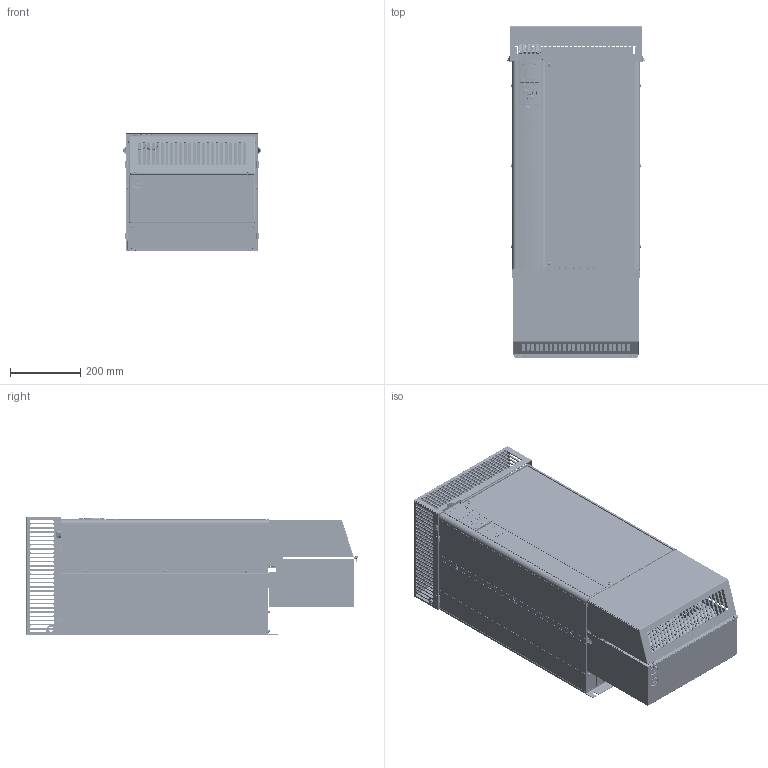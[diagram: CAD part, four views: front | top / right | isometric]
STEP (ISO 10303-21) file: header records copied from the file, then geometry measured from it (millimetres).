
FILE_DESCRIPTION((''),'2;1');
FILE_NAME('DANFOSS-FC300C4NEMA1KITOPT-205','2008-10-23T',('Abhilash.Paramesh'),('Danfoss Drives A/S'),'PRO/ENGINEER BY PARAMETRIC TECHNOLOGY CORPORATION, 2007160','PRO/ENGINEER BY PARAMETRIC TECHNOLOGY CORPORATION, 2007160','');
FILE_SCHEMA(('CONFIG_CONTROL_DESIGN', 'GEOMETRIC_VALIDATION_PROPERTIES_MIM'));
Products named in the file (1): DANFOSS-FC300C4NEMA1KITOPT-205
Bounding box: 391.93 x 946.75 x 337 mm (x, y, z)
Volume: 70472649.6 mm3; surface area: 2956514.7 mm2
Topology: 1 solids, 30 shells, 7292 faces, 20278 edges, 12966 vertices
Faces by surface type: plane 3809, cylinder 2261, bspline 680, extrusion 175, torus 157, cone 116, sphere 94
Entity records: 376688 total; most frequent: CARTESIAN_POINT 164725, ORIENTED_EDGE 40364, DIRECTION 33812, EDGE_CURVE 20182, VERTEX_POINT 12966, VECTOR 12194, LINE 12019, AXIS2_PLACEMENT_3D 10809
